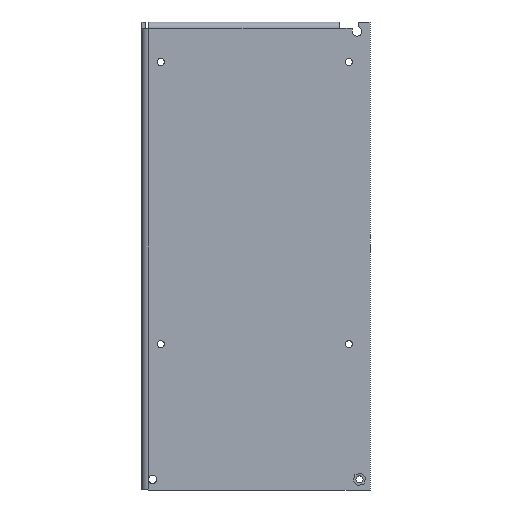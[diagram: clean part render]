
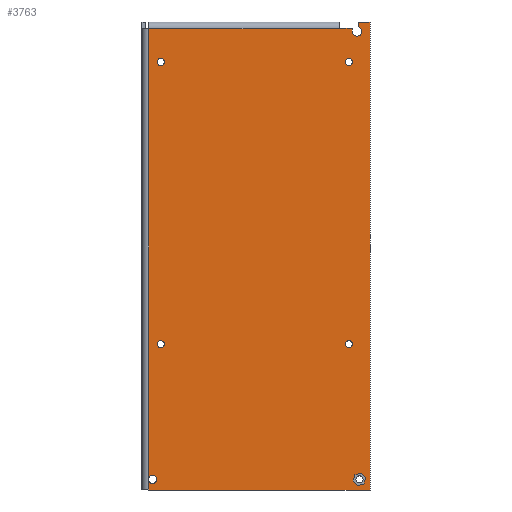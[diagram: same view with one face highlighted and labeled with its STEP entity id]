
A CAD part, left-side view. The second image highlights one B-rep face of the part: STEP entity #3763.
In plain terms, the highlighted planar face has unit normal (-1, 0, 0).
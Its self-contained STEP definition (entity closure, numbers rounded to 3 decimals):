
#187=FACE_BOUND('',#825,.T.);
#188=FACE_BOUND('',#826,.T.);
#189=FACE_BOUND('',#827,.T.);
#190=FACE_BOUND('',#828,.T.);
#191=FACE_BOUND('',#829,.T.);
#232=CIRCLE('',#3862,1.5);
#233=CIRCLE('',#3864,1.5);
#234=CIRCLE('',#3866,1.75);
#238=CIRCLE('',#3870,1.75);
#239=CIRCLE('',#3873,1.5);
#240=CIRCLE('',#3875,1.5);
#243=CIRCLE('',#3882,2.);
#431=CIRCLE('',#4206,2.);
#432=CIRCLE('',#4209,2.8);
#604=FACE_OUTER_BOUND('',#824,.T.);
#824=EDGE_LOOP('',(#3179,#3180,#3181,#3182,#3183,#3184,#3185,#3186,#3187,
#3188,#3189,#3190,#3191,#3192,#3193));
#825=EDGE_LOOP('',(#3194,#3195,#3196,#3197,#3198,#3199));
#826=EDGE_LOOP('',(#3200));
#827=EDGE_LOOP('',(#3201));
#828=EDGE_LOOP('',(#3202));
#829=EDGE_LOOP('',(#3203));
#860=LINE('',#5374,#1120);
#864=LINE('',#5382,#1124);
#867=LINE('',#5388,#1127);
#870=LINE('',#5394,#1130);
#873=LINE('',#5400,#1133);
#876=LINE('',#5405,#1136);
#890=LINE('',#5530,#1150);
#892=LINE('',#5537,#1152);
#893=LINE('',#5541,#1153);
#898=LINE('',#5555,#1158);
#1011=LINE('',#6118,#1271);
#1087=LINE('',#6498,#1347);
#1090=LINE('',#6504,#1350);
#1091=LINE('',#6505,#1351);
#1092=LINE('',#6506,#1352);
#1093=LINE('',#6509,#1353);
#1120=VECTOR('',#4246,10.);
#1124=VECTOR('',#4252,10.);
#1127=VECTOR('',#4257,10.);
#1130=VECTOR('',#4262,10.);
#1133=VECTOR('',#4267,10.);
#1136=VECTOR('',#4272,10.);
#1150=VECTOR('',#4412,10.);
#1152=VECTOR('',#4418,10.);
#1153=VECTOR('',#4421,10.);
#1158=VECTOR('',#4434,10.);
#1271=VECTOR('',#4945,10.);
#1347=VECTOR('',#5269,10.);
#1350=VECTOR('',#5274,10.);
#1351=VECTOR('',#5275,10.);
#1352=VECTOR('',#5276,10.);
#1353=VECTOR('',#5279,10.);
#1380=VERTEX_POINT('',#5372);
#1381=VERTEX_POINT('',#5373);
#1384=VERTEX_POINT('',#5381);
#1386=VERTEX_POINT('',#5387);
#1388=VERTEX_POINT('',#5393);
#1390=VERTEX_POINT('',#5399);
#1423=VERTEX_POINT('',#5490);
#1424=VERTEX_POINT('',#5494);
#1425=VERTEX_POINT('',#5498);
#1426=VERTEX_POINT('',#5499);
#1427=VERTEX_POINT('',#5506);
#1431=VERTEX_POINT('',#5519);
#1432=VERTEX_POINT('',#5523);
#1433=VERTEX_POINT('',#5529);
#1436=VERTEX_POINT('',#5535);
#1437=VERTEX_POINT('',#5539);
#1438=VERTEX_POINT('',#5540);
#1441=VERTEX_POINT('',#5548);
#1443=VERTEX_POINT('',#5554);
#1610=VERTEX_POINT('',#6116);
#1697=VERTEX_POINT('',#6475);
#1705=VERTEX_POINT('',#6492);
#1706=VERTEX_POINT('',#6497);
#1708=VERTEX_POINT('',#6503);
#1709=VERTEX_POINT('',#6507);
#1720=EDGE_CURVE('',#1380,#1381,#860,.T.);
#1724=EDGE_CURVE('',#1381,#1384,#864,.T.);
#1727=EDGE_CURVE('',#1384,#1386,#867,.T.);
#1730=EDGE_CURVE('',#1386,#1388,#870,.T.);
#1733=EDGE_CURVE('',#1388,#1390,#873,.T.);
#1736=EDGE_CURVE('',#1390,#1380,#876,.T.);
#1778=EDGE_CURVE('',#1423,#1423,#232,.T.);
#1780=EDGE_CURVE('',#1424,#1424,#233,.T.);
#1783=EDGE_CURVE('',#1427,#1425,#234,.T.);
#1788=EDGE_CURVE('',#1426,#1427,#238,.T.);
#1790=EDGE_CURVE('',#1431,#1431,#239,.T.);
#1792=EDGE_CURVE('',#1432,#1432,#240,.T.);
#1795=EDGE_CURVE('',#1433,#1426,#890,.T.);
#1799=EDGE_CURVE('',#1425,#1436,#892,.T.);
#1800=EDGE_CURVE('',#1437,#1438,#893,.T.);
#1804=EDGE_CURVE('',#1441,#1437,#243,.T.);
#1807=EDGE_CURVE('',#1443,#1441,#898,.T.);
#2057=EDGE_CURVE('',#1610,#1436,#1011,.T.);
#2214=EDGE_CURVE('',#1705,#1443,#431,.T.);
#2215=EDGE_CURVE('',#1705,#1706,#1087,.T.);
#2218=EDGE_CURVE('',#1708,#1610,#1090,.T.);
#2219=EDGE_CURVE('',#1706,#1708,#1091,.T.);
#2220=EDGE_CURVE('',#1438,#1697,#1092,.T.);
#2221=EDGE_CURVE('',#1709,#1697,#432,.T.);
#2222=EDGE_CURVE('',#1709,#1433,#1093,.T.);
#3179=ORIENTED_EDGE('',*,*,#1788,.T.);
#3180=ORIENTED_EDGE('',*,*,#1783,.T.);
#3181=ORIENTED_EDGE('',*,*,#1799,.T.);
#3182=ORIENTED_EDGE('',*,*,#2057,.F.);
#3183=ORIENTED_EDGE('',*,*,#2218,.F.);
#3184=ORIENTED_EDGE('',*,*,#2219,.F.);
#3185=ORIENTED_EDGE('',*,*,#2215,.F.);
#3186=ORIENTED_EDGE('',*,*,#2214,.T.);
#3187=ORIENTED_EDGE('',*,*,#1807,.T.);
#3188=ORIENTED_EDGE('',*,*,#1804,.T.);
#3189=ORIENTED_EDGE('',*,*,#1800,.T.);
#3190=ORIENTED_EDGE('',*,*,#2220,.T.);
#3191=ORIENTED_EDGE('',*,*,#2221,.F.);
#3192=ORIENTED_EDGE('',*,*,#2222,.T.);
#3193=ORIENTED_EDGE('',*,*,#1795,.T.);
#3194=ORIENTED_EDGE('',*,*,#1720,.T.);
#3195=ORIENTED_EDGE('',*,*,#1724,.T.);
#3196=ORIENTED_EDGE('',*,*,#1727,.T.);
#3197=ORIENTED_EDGE('',*,*,#1730,.T.);
#3198=ORIENTED_EDGE('',*,*,#1733,.T.);
#3199=ORIENTED_EDGE('',*,*,#1736,.T.);
#3200=ORIENTED_EDGE('',*,*,#1778,.T.);
#3201=ORIENTED_EDGE('',*,*,#1780,.T.);
#3202=ORIENTED_EDGE('',*,*,#1790,.T.);
#3203=ORIENTED_EDGE('',*,*,#1792,.T.);
#3389=PLANE('',#4208);
#3763=ADVANCED_FACE('',(#604,#187,#188,#189,#190,#191),#3389,.F.);
#3862=AXIS2_PLACEMENT_3D('',#5491,#4373,#4374);
#3864=AXIS2_PLACEMENT_3D('',#5495,#4378,#4379);
#3866=AXIS2_PLACEMENT_3D('',#5507,#4383,#4384);
#3870=AXIS2_PLACEMENT_3D('',#5515,#4392,#4393);
#3873=AXIS2_PLACEMENT_3D('',#5520,#4399,#4400);
#3875=AXIS2_PLACEMENT_3D('',#5524,#4404,#4405);
#3882=AXIS2_PLACEMENT_3D('',#5549,#4427,#4428);
#4206=AXIS2_PLACEMENT_3D('',#6495,#5265,#5266);
#4208=AXIS2_PLACEMENT_3D('',#6502,#5272,#5273);
#4209=AXIS2_PLACEMENT_3D('',#6508,#5277,#5278);
#4246=DIRECTION('',(0.,0.698,0.716));
#4252=DIRECTION('',(0.,-0.271,0.963));
#4257=DIRECTION('',(0.,-0.969,0.247));
#4262=DIRECTION('',(0.,-0.698,-0.716));
#4267=DIRECTION('',(0.,0.271,-0.963));
#4272=DIRECTION('',(0.,0.969,-0.247));
#4373=DIRECTION('center_axis',(1.,0.,0.));
#4374=DIRECTION('ref_axis',(0.,0.,-1.));
#4378=DIRECTION('center_axis',(1.,0.,0.));
#4379=DIRECTION('ref_axis',(0.,0.,-1.));
#4383=DIRECTION('center_axis',(1.,0.,0.));
#4384=DIRECTION('ref_axis',(0.,0.,-1.));
#4392=DIRECTION('center_axis',(1.,0.,0.));
#4393=DIRECTION('ref_axis',(0.,0.,-1.));
#4399=DIRECTION('center_axis',(1.,0.,0.));
#4400=DIRECTION('ref_axis',(0.,0.,-1.));
#4404=DIRECTION('center_axis',(1.,0.,0.));
#4405=DIRECTION('ref_axis',(0.,0.,-1.));
#4412=DIRECTION('',(0.,0.,-1.));
#4418=DIRECTION('',(0.,0.,-1.));
#4421=DIRECTION('',(0.,0.,1.));
#4427=DIRECTION('center_axis',(1.,0.,0.));
#4428=DIRECTION('ref_axis',(0.,-1.,-0.01));
#4434=DIRECTION('',(0.,0.784,0.621));
#4945=DIRECTION('',(0.,1.,0.));
#5265=DIRECTION('center_axis',(1.,0.,0.));
#5266=DIRECTION('ref_axis',(0.,0.049,0.999));
#5269=DIRECTION('',(0.,0.,1.));
#5272=DIRECTION('center_axis',(1.,0.,0.));
#5273=DIRECTION('ref_axis',(0.,0.,-1.));
#5274=DIRECTION('',(0.,0.,-1.));
#5275=DIRECTION('',(0.,-1.,0.));
#5276=DIRECTION('',(0.,1.,0.));
#5277=DIRECTION('center_axis',(0.,1.,0.));
#5278=DIRECTION('ref_axis',(-1.,0.,0.));
#5279=DIRECTION('',(0.,1.,0.));
#5372=CARTESIAN_POINT('',(0.,5.244,-38.147));
#5373=CARTESIAN_POINT('',(0.,7.165,-36.179));
#5374=CARTESIAN_POINT('',(0.,46.157,3.78));
#5381=CARTESIAN_POINT('',(0.,6.421,-33.532));
#5382=CARTESIAN_POINT('',(0.,-6.763,13.363));
#5387=CARTESIAN_POINT('',(0.,3.756,-32.853));
#5388=CARTESIAN_POINT('',(0.,11.319,-34.78));
#5393=CARTESIAN_POINT('',(0.,1.835,-34.821));
#5394=CARTESIAN_POINT('',(0.,41.787,6.122));
#5399=CARTESIAN_POINT('',(0.,2.579,-37.468));
#5400=CARTESIAN_POINT('',(0.,-10.976,10.751));
#5405=CARTESIAN_POINT('',(0.,11.475,-39.735));
#5490=CARTESIAN_POINT('',(0.,9.,143.5));
#5491=CARTESIAN_POINT('Origin',(0.,9.,142.));
#5494=CARTESIAN_POINT('',(0.,89.,23.5));
#5495=CARTESIAN_POINT('Origin',(0.,89.,22.));
#5498=CARTESIAN_POINT('',(0.,94.2,-35.915));
#5499=CARTESIAN_POINT('',(0.,94.2,-35.085));
#5506=CARTESIAN_POINT('',(0.,92.5,-33.75));
#5507=CARTESIAN_POINT('Origin',(0.,92.5,-35.5));
#5515=CARTESIAN_POINT('Origin',(0.,92.5,-35.5));
#5519=CARTESIAN_POINT('',(0.,89.,143.5));
#5520=CARTESIAN_POINT('Origin',(0.,89.,142.));
#5523=CARTESIAN_POINT('',(0.,9.,23.5));
#5524=CARTESIAN_POINT('Origin',(0.,9.,22.));
#5529=CARTESIAN_POINT('',(0.,94.2,156.2));
#5530=CARTESIAN_POINT('',(0.,94.2,119.25));
#5535=CARTESIAN_POINT('',(0.,94.2,-40.));
#5537=CARTESIAN_POINT('',(0.,94.2,119.25));
#5539=CARTESIAN_POINT('',(0.,7.5,155.019));
#5540=CARTESIAN_POINT('',(0.,7.5,156.25));
#5541=CARTESIAN_POINT('',(0.,7.5,155.019));
#5548=CARTESIAN_POINT('',(0.,6.945,153.617));
#5549=CARTESIAN_POINT('Origin',(0.,5.5,155.));
#5554=CARTESIAN_POINT('',(0.,6.514,153.276));
#5555=CARTESIAN_POINT('',(0.,3.741,151.082));
#6116=CARTESIAN_POINT('',(0.,0.,-40.));
#6118=CARTESIAN_POINT('',(0.,94.2,-40.));
#6475=CARTESIAN_POINT('',(0.,13.,156.25));
#6492=CARTESIAN_POINT('',(0.,5.,156.936));
#6495=CARTESIAN_POINT('Origin',(0.,5.5,155.));
#6497=CARTESIAN_POINT('',(0.,5.,159.));
#6498=CARTESIAN_POINT('',(0.,5.,156.25));
#6502=CARTESIAN_POINT('Origin',(0.,48.5,79.5));
#6503=CARTESIAN_POINT('',(0.,0.,159.));
#6504=CARTESIAN_POINT('',(0.,0.,159.));
#6505=CARTESIAN_POINT('',(0.,94.2,159.));
#6506=CARTESIAN_POINT('',(0.,7.5,156.25));
#6507=CARTESIAN_POINT('',(0.,13.,156.2));
#6508=CARTESIAN_POINT('Origin',(2.8,13.,156.2));
#6509=CARTESIAN_POINT('',(0.,24.25,156.2));
